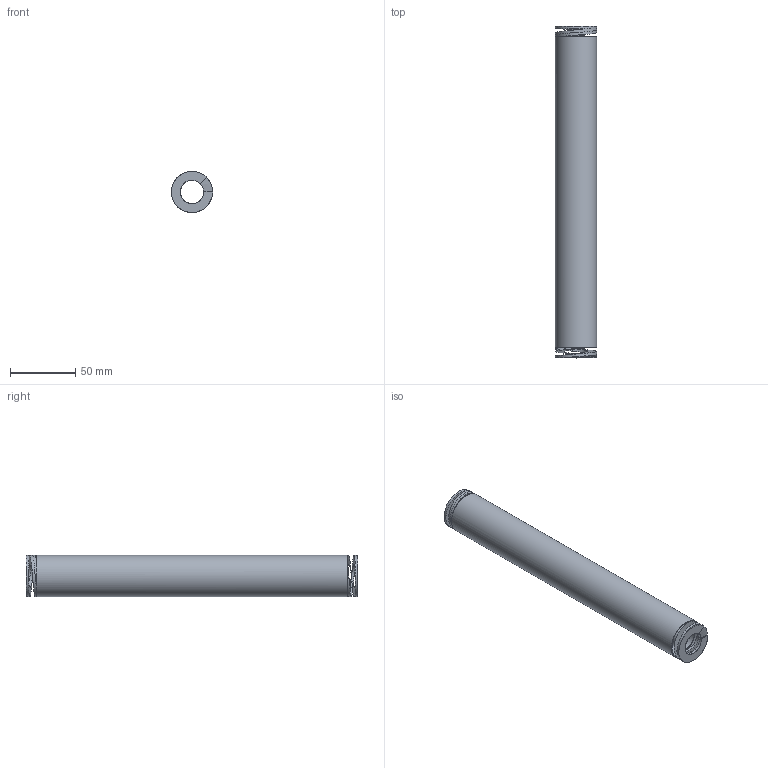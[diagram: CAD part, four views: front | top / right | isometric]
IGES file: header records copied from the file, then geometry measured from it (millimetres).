
Global section: file name: 2S32252; native system: Autodesk Inventor 2026; preprocessor: unknown; author: J. Iwanek; date: 20261007.113158; units: millimetre
Bounding box: 31.51 x 254 x 31.51 mm (x, y, z)
Volume: 130776.4 mm3; surface area: 42215.9 mm2
Topology: 1 solids, 1 shells, 22 faces, 78 edges, 48 vertices
Faces by surface type: bspline 22
